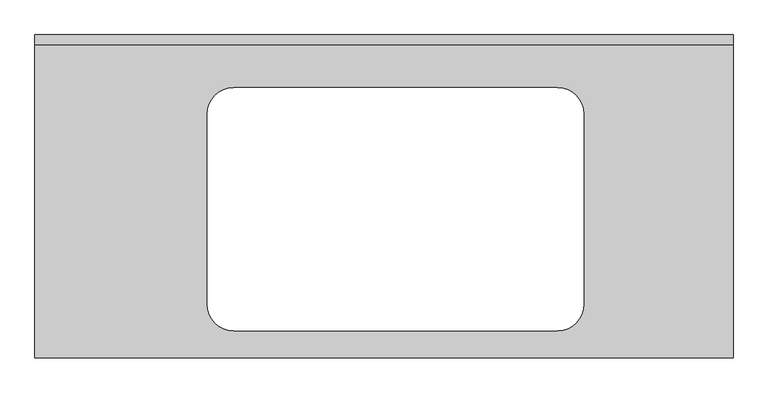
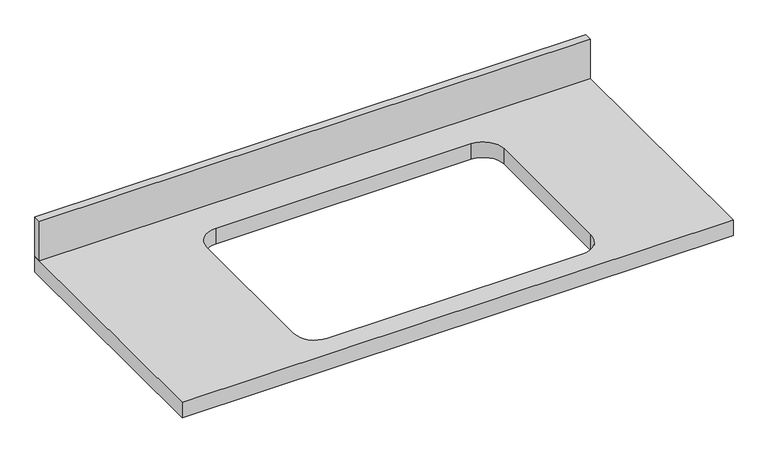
"""IFC4 building model written with IfcOpenShell, lengths in millimetres: furniture geometry, Столешница туалетного шкафчика с квадратным отверстием под раковину : Глубина 600мм."""

from ifc_helpers import new_model, si_unit, point, frame, frame_2d, origin, place, context, project, spatial, polyline, circle_curve, trimmed, segment, composite_curve, outline, extrude, source, transform, mapped, element, save


def furniture_76c7eef1(model_context):
    return source(origin(), model_context, "Body", "SweptSolid", [
        extrude(outline(polyline([(-1268.7247951, 0.0), (81.2752049, 0.0), (81.2752049, -19.05), (-1268.7247951, -19.05), (-1268.7247951, 0.0)])), frame((0.0, 0.0, 900.0), z_axis=(0.0, 0.0, 1.0), x_axis=(1.0, 0.0, 0.0)), (0.0, 0.0, 1.0), 101.6),
        extrude(outline(polyline([(81.2752049, 0.0), (81.2752049, -625.0), (-1268.7247951, -625.0), (-1268.7247951, 0.0), (81.2752049, 0.0)]), holes=[composite_curve([segment(trimmed(circle_curve(frame_2d((-884.6247951, -153.1)), 50.8), [point((-884.6247951, -102.3))], [point((-935.4247951, -153.1))], True, "CARTESIAN"), True, "CONTINUOUS"), segment(polyline([(-935.4247951, -153.1), (-935.4247951, -521.9)]), True, "CONTINUOUS"), segment(trimmed(circle_curve(frame_2d((-884.6247951, -521.9)), 50.8), [point((-935.4247951, -521.9))], [point((-884.6247951, -572.7))], True, "CARTESIAN"), True, "CONTINUOUS"), segment(polyline([(-884.6247951, -572.7), (-258.3111309, -572.7)]), True, "CONTINUOUS"), segment(trimmed(circle_curve(frame_2d((-258.3111309, -521.9)), 50.8), [point((-258.3111309, -572.7))], [point((-207.5111309, -521.9))], True, "CARTESIAN"), True, "CONTINUOUS"), segment(polyline([(-207.5111309, -521.9), (-207.5111309, -153.1)]), True, "CONTINUOUS"), segment(trimmed(circle_curve(frame_2d((-258.3111309, -153.1)), 50.8), [point((-207.5111309, -153.1))], [point((-258.3111309, -102.3))], True, "CARTESIAN"), True, "CONTINUOUS"), segment(polyline([(-258.3111309, -102.3), (-884.6247951, -102.3)]), True, "CONTINUOUS")], self_intersect=False)]), frame((0.0, 0.0, 860.0), z_axis=(0.0, 0.0, 1.0), x_axis=(1.0, 0.0, 0.0)), (0.0, 0.0, 1.0), 40.0),
    ])


if __name__ == "__main__":
    model = new_model("IFC4")
    model_context = context("Model", 3, world=origin())
    ifc_project = project(units=[si_unit("LENGTHUNIT", "METRE", prefix="MILLI")], contexts=[model_context])
    site = spatial("IfcSite", under=ifc_project)
    building = spatial("IfcBuilding", under=site)
    placement = place(None, origin())
    furniture_shape = furniture_76c7eef1(model_context)
    element("IfcFurniture", 1, ObjectType="Столешница туалетного шкафчика с квадратным отверстием под раковину : Глубина 600мм", at=placement, inside=building, context=model_context, shape_type="MappedRepresentation", body=[
        mapped(furniture_shape, transform((0.0, 0.0, 0.0), x_axis=(1.0, 0.0, 0.0), y_axis=(0.0, 1.0, 0.0), z_axis=(0.0, 0.0, 1.0))),
    ])
    save(model, "model.ifc")
